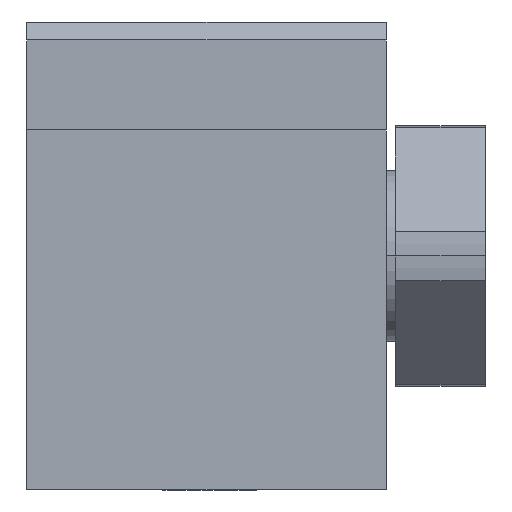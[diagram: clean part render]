
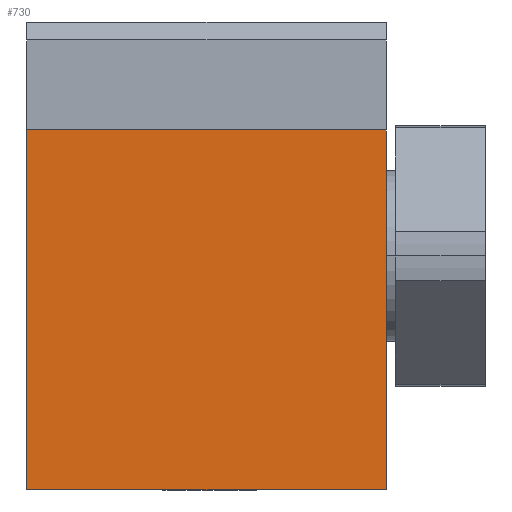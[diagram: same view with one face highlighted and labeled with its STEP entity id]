
A CAD part, front view. The second image highlights one B-rep face of the part: STEP entity #730.
In plain terms, the highlighted planar face has unit normal (0, -1, 0).
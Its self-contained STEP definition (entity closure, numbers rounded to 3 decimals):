
#342=CARTESIAN_POINT('Vertex',(-20.,-21.,-13.)) ;
#358=CARTESIAN_POINT('Vertex',(0.,-21.,-13.)) ;
#361=CARTESIAN_POINT('Line Origine',(-10.,-21.,-13.)) ;
#469=CARTESIAN_POINT('Line Origine',(-20.,-21.,-3.)) ;
#473=CARTESIAN_POINT('Vertex',(-20.,-21.,7.)) ;
#603=CARTESIAN_POINT('Vertex',(0.,-21.,7.)) ;
#606=CARTESIAN_POINT('Line Origine',(0.,-21.,-3.)) ;
#714=CARTESIAN_POINT('Axis2P3D Location',(0.,-21.,-13.)) ;
#719=CARTESIAN_POINT('Line Origine',(-10.,-21.,7.)) ;
#362=DIRECTION('Vector Direction',(-1.,0.,0.)) ;
#470=DIRECTION('Vector Direction',(0.,0.,1.)) ;
#607=DIRECTION('Vector Direction',(0.,0.,1.)) ;
#715=DIRECTION('Axis2P3D Direction',(0.,-1.,0.)) ;
#716=DIRECTION('Axis2P3D XDirection',(0.,0.,1.)) ;
#720=DIRECTION('Vector Direction',(-1.,0.,0.)) ;
#717=AXIS2_PLACEMENT_3D('Plane Axis2P3D',#714,#715,#716) ;
#725=ORIENTED_EDGE('',*,*,#475,.T.) ;
#726=ORIENTED_EDGE('',*,*,#365,.F.) ;
#727=ORIENTED_EDGE('',*,*,#610,.F.) ;
#728=ORIENTED_EDGE('',*,*,#723,.T.) ;
#363=VECTOR('Line Direction',#362,1.) ;
#471=VECTOR('Line Direction',#470,1.) ;
#608=VECTOR('Line Direction',#607,1.) ;
#721=VECTOR('Line Direction',#720,1.) ;
#730=ADVANCED_FACE('EK6P5(H)',(#729),#718,.T.) ;
#365=EDGE_CURVE('',#359,#343,#364,.T.) ;
#475=EDGE_CURVE('',#474,#343,#472,.F.) ;
#610=EDGE_CURVE('',#604,#359,#609,.F.) ;
#723=EDGE_CURVE('',#604,#474,#722,.T.) ;
#724=EDGE_LOOP('',(#725,#726,#727,#728)) ;
#729=FACE_OUTER_BOUND('',#724,.T.) ;
#364=LINE('Line',#361,#363) ;
#472=LINE('Line',#469,#471) ;
#609=LINE('Line',#606,#608) ;
#722=LINE('Line',#719,#721) ;
#718=PLANE('Plane',#717) ;
#343=VERTEX_POINT('',#342) ;
#359=VERTEX_POINT('',#358) ;
#474=VERTEX_POINT('',#473) ;
#604=VERTEX_POINT('',#603) ;
